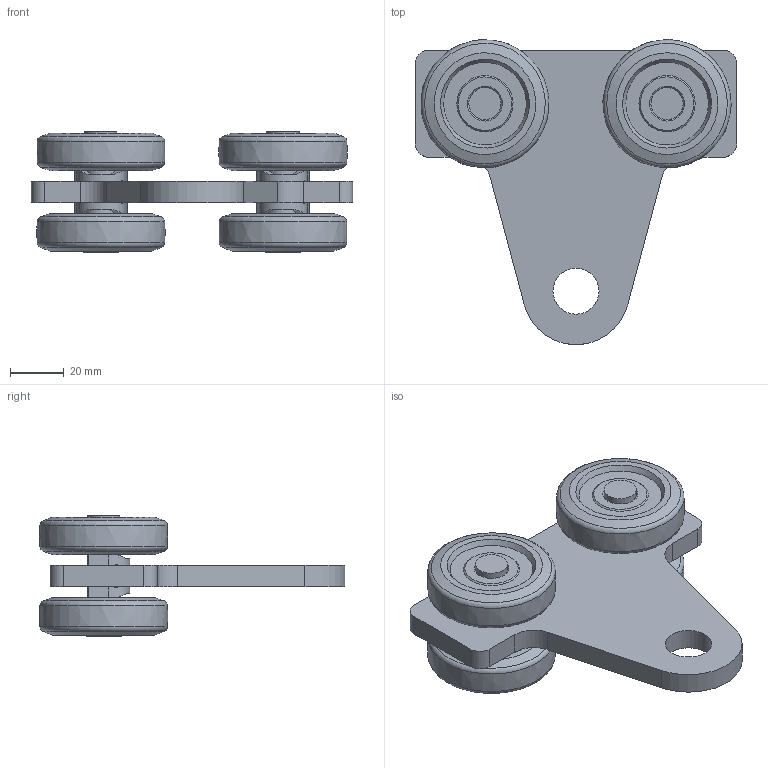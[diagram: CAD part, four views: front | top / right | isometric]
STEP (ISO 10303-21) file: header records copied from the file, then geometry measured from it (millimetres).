
FILE_DESCRIPTION(/* description */ ('Brennteil'),/* implementation_level */ '2;1');
FILE_NAME(/* name */ 'Q:\sge-ma\Produktmanagement-STB\STB\Workspace\stp\010336839.stp',/* time_stamp */ '2015-03-10T13:31:09+01:00',/* author */ ('avschreier'),/* organization */ (''),/* preprocessor_version */ 'ST-DEVELOPER v15.6',/* originating_system */ 'Autodesk Inventor 2015',/* authorisation */ '');
FILE_SCHEMA (('CONFIG_CONTROL_DESIGN'));
Length unit declared in the file: millimetre
Products named in the file (5): 000302075; 000303237; 336290030; 000304012; 010336839
Bounding box: 120 x 113.91 x 45.08 mm (x, y, z)
Volume: 152140.4 mm3; surface area: 48537 mm2
Topology: 11 solids, 11 shells, 261 faces, 623 edges, 400 vertices
Faces by surface type: plane 145, cylinder 36, bspline 36, cone 36, torus 8
Full cylindrical faces by diameter (mm): 12 x6, 14 x2, 17.2 x1
Entity records: 3713 total; most frequent: CARTESIAN_POINT 1558, DIRECTION 440, ORIENTED_EDGE 392, EDGE_CURVE 196, AXIS2_PLACEMENT_3D 167, VERTEX_POINT 137, EDGE_LOOP 115, LINE 106
